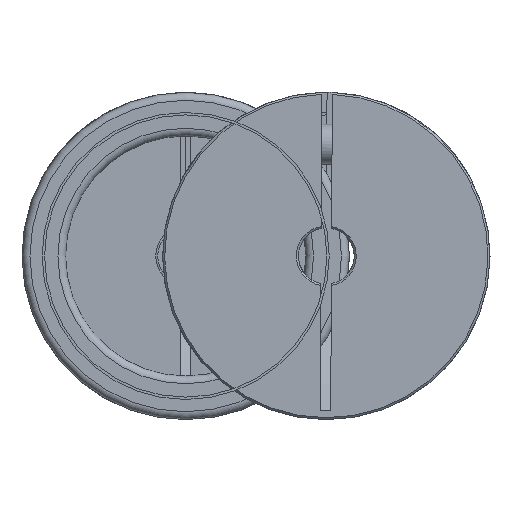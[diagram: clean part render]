
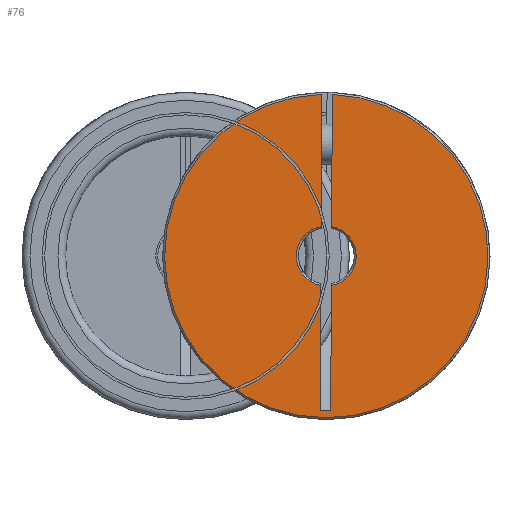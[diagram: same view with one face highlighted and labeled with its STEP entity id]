
A CAD part, left-side view. The second image highlights one B-rep face of the part: STEP entity #76.
In plain terms, the highlighted planar face has unit normal (-1, 0, 0).
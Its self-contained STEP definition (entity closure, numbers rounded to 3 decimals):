
#76 = ADVANCED_FACE( 'NONE', ( #153 ), #154, .F. );
#153 = FACE_OUTER_BOUND( '', #260, .T. );
#154 = PLANE( '', #261 );
#260 = EDGE_LOOP( '', ( #436, #437, #438, #439, #440, #441, #442, #443 ) );
#261 = AXIS2_PLACEMENT_3D( '', #444, #445, #446 );
#436 = ORIENTED_EDGE( '', *, *, #835, .T. );
#437 = ORIENTED_EDGE( '', *, *, #836, .T. );
#438 = ORIENTED_EDGE( '', *, *, #837, .T. );
#439 = ORIENTED_EDGE( '', *, *, #838, .T. );
#440 = ORIENTED_EDGE( '', *, *, #839, .F. );
#441 = ORIENTED_EDGE( '', *, *, #831, .T. );
#442 = ORIENTED_EDGE( '', *, *, #840, .F. );
#443 = ORIENTED_EDGE( '', *, *, #841, .T. );
#444 = CARTESIAN_POINT( '', ( 0., 7., 0. ) );
#445 = DIRECTION( '', ( 1., 0., 0. ) );
#446 = DIRECTION( '', ( 0., 1., 0. ) );
#831 = EDGE_CURVE( 'NONE', #1114, #1111, #1115, .T. );
#835 = EDGE_CURVE( 'NONE', #1120, #1121, #1122, .T. );
#836 = EDGE_CURVE( 'NONE', #1121, #1123, #1124, .T. );
#837 = EDGE_CURVE( 'NONE', #1123, #1125, #1126, .T. );
#838 = EDGE_CURVE( 'NONE', #1125, #1127, #1128, .F. );
#839 = EDGE_CURVE( 'NONE', #1114, #1127, #1129, .F. );
#840 = EDGE_CURVE( 'NONE', #1130, #1111, #1131, .F. );
#841 = EDGE_CURVE( 'NONE', #1130, #1120, #1132, .T. );
#1111 = VERTEX_POINT( 'NONE', #1622 );
#1114 = VERTEX_POINT( 'NONE', #1628 );
#1115 = CIRCLE( '', #1629, 7.5 );
#1120 = VERTEX_POINT( 'NONE', #1637 );
#1121 = VERTEX_POINT( 'NONE', #1638 );
#1122 = LINE( '', #1639, #1640 );
#1123 = VERTEX_POINT( 'NONE', #1641 );
#1124 = CIRCLE( '', #1642, 7.5 );
#1125 = VERTEX_POINT( 'NONE', #1643 );
#1126 = LINE( '', #1644, #1645 );
#1127 = VERTEX_POINT( 'NONE', #1646 );
#1128 = CIRCLE( '', #1647, 40.5 );
#1129 = LINE( '', #1648, #1649 );
#1130 = VERTEX_POINT( 'NONE', #1650 );
#1131 = LINE( '', #1651, #1652 );
#1132 = LINE( '', #1653, #1654 );
#1622 = CARTESIAN_POINT( '', ( 0., -1.3, -7.386 ) );
#1628 = CARTESIAN_POINT( '', ( 0., -1.3, 7.386 ) );
#1629 = AXIS2_PLACEMENT_3D( '', #2020, #2021, #2022 );
#1637 = CARTESIAN_POINT( '', ( 0., 1.3, -38.697 ) );
#1638 = CARTESIAN_POINT( '', ( 0., 1.3, -7.386 ) );
#1639 = CARTESIAN_POINT( '', ( 0., 1.3, 0. ) );
#1640 = VECTOR( '', #2026, 1000. );
#1641 = CARTESIAN_POINT( '', ( 0., 1.3, 7.386 ) );
#1642 = AXIS2_PLACEMENT_3D( '', #2027, #2028, #2029 );
#1643 = CARTESIAN_POINT( '', ( 0., 1.3, 40.479 ) );
#1644 = CARTESIAN_POINT( '', ( 0., 1.3, 0. ) );
#1645 = VECTOR( '', #2030, 1000. );
#1646 = CARTESIAN_POINT( '', ( 0., -1.3, 40.479 ) );
#1647 = AXIS2_PLACEMENT_3D( '', #2031, #2032, #2033 );
#1648 = CARTESIAN_POINT( '', ( 0., -1.3, 11. ) );
#1649 = VECTOR( '', #2034, 1000. );
#1650 = CARTESIAN_POINT( '', ( 0., -1.3, -38.697 ) );
#1651 = CARTESIAN_POINT( '', ( 0., -1.3, 11. ) );
#1652 = VECTOR( '', #2035, 1000. );
#1653 = CARTESIAN_POINT( '', ( 0., -1.3, -38.697 ) );
#1654 = VECTOR( '', #2036, 1000. );
#2020 = CARTESIAN_POINT( '', ( 0., 0., 0. ) );
#2021 = DIRECTION( '', ( 1., 0., 0. ) );
#2022 = DIRECTION( '', ( 0., 0., -1. ) );
#2026 = DIRECTION( '', ( 0., 0., 1. ) );
#2027 = CARTESIAN_POINT( '', ( 0., 0., 0. ) );
#2028 = DIRECTION( '', ( 1., 0., 0. ) );
#2029 = DIRECTION( '', ( 0., 0., -1. ) );
#2030 = DIRECTION( '', ( 0., 0., 1. ) );
#2031 = CARTESIAN_POINT( '', ( 0., 0., 0. ) );
#2032 = DIRECTION( '', ( 1., 0., 0. ) );
#2033 = DIRECTION( '', ( 0., 0., -1. ) );
#2034 = DIRECTION( '', ( 0., 0., -1. ) );
#2035 = DIRECTION( '', ( 0., 0., -1. ) );
#2036 = DIRECTION( '', ( 0., 1., 0. ) );
